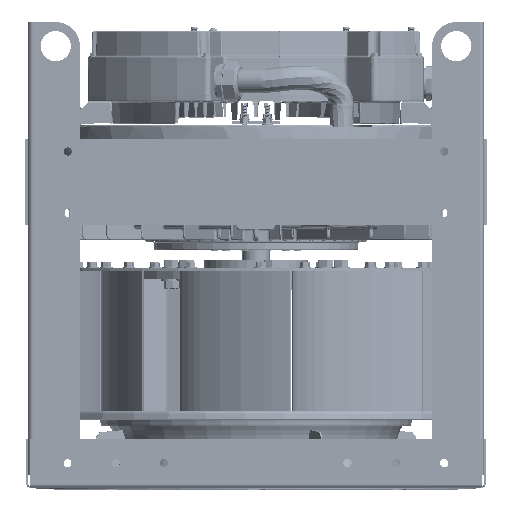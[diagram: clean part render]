
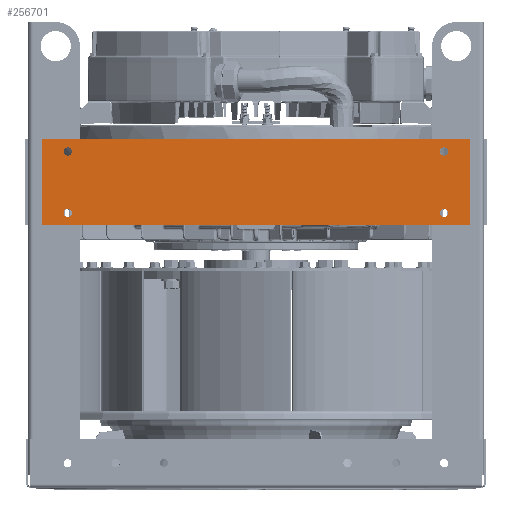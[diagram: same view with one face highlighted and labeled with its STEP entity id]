
A CAD part, front view. The second image highlights one B-rep face of the part: STEP entity #256701.
In plain terms, the highlighted planar face has unit normal (0, -1, 0) as drawn and (0, 0, -1) by its records, which use the part's own axes.
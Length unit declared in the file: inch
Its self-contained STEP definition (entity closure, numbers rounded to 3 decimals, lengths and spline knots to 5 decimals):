
#492 = CIRCLE ( 'NONE', #46944, 0.172 ) ;
#14996 = AXIS2_PLACEMENT_3D ( 'NONE', #96579, #72330, #25329 ) ;
#17890 = CARTESIAN_POINT ( 'NONE',  ( 8.865, -1.77, 0. ) ) ;
#21151 = LINE ( 'NONE', #170020, #211689 ) ;
#24623 = EDGE_LOOP ( 'NONE', ( #263222 ) ) ;
#25329 = DIRECTION ( 'NONE',  ( 1., 0., 0. ) ) ;
#26409 = DIRECTION ( 'NONE',  ( 0., -1., 0. ) ) ;
#27752 = AXIS2_PLACEMENT_3D ( 'NONE', #141549, #65502, #215910 ) ;
#38983 = FACE_BOUND ( 'NONE', #120374, .T. ) ;
#39611 = ORIENTED_EDGE ( 'NONE', *, *, #133443, .T. ) ;
#46944 = AXIS2_PLACEMENT_3D ( 'NONE', #142897, #74521, #199051 ) ;
#48929 = DIRECTION ( 'NONE',  ( -1., 0., 0. ) ) ;
#49967 = CARTESIAN_POINT ( 'NONE',  ( 7.957, 1.27, 0. ) ) ;
#65502 = DIRECTION ( 'NONE',  ( 0., 0., 1. ) ) ;
#66490 = DIRECTION ( 'NONE',  ( 0., 1., 0. ) ) ;
#67610 = CARTESIAN_POINT ( 'NONE',  ( -8.865, 1.77, 0. ) ) ;
#72330 = DIRECTION ( 'NONE',  ( 0., 0., 1. ) ) ;
#74521 = DIRECTION ( 'NONE',  ( 0., 0., 1. ) ) ;
#75048 = EDGE_CURVE ( 'NONE', #243849, #75192, #21151, .T. ) ;
#75192 = VERTEX_POINT ( 'NONE', #124644 ) ;
#75840 = CARTESIAN_POINT ( 'NONE',  ( -7.613, 1.27, 0. ) ) ;
#76367 = LINE ( 'NONE', #294830, #277986 ) ;
#89516 = CARTESIAN_POINT ( 'NONE',  ( -8.865, -1.77, 0. ) ) ;
#91968 = EDGE_CURVE ( 'NONE', #75192, #158950, #76367, .T. ) ;
#93740 = EDGE_CURVE ( 'NONE', #266055, #243849, #180548, .T. ) ;
#96579 = CARTESIAN_POINT ( 'NONE',  ( 7.785, 1.27, 0. ) ) ;
#98556 = VERTEX_POINT ( 'NONE', #49967 ) ;
#100788 = EDGE_CURVE ( 'NONE', #317758, #317758, #166788, .T. ) ;
#110821 = ORIENTED_EDGE ( 'NONE', *, *, #143940, .F. ) ;
#115026 = DIRECTION ( 'NONE',  ( 0., 0., 1. ) ) ;
#119366 = PLANE ( 'NONE',  #205097 ) ;
#120374 = EDGE_LOOP ( 'NONE', ( #39611 ) ) ;
#124644 = CARTESIAN_POINT ( 'NONE',  ( 8.865, 1.77, 0. ) ) ;
#124748 = AXIS2_PLACEMENT_3D ( 'NONE', #139324, #115026, #213732 ) ;
#125909 = CIRCLE ( 'NONE', #27752, 0.172 ) ;
#129423 = ORIENTED_EDGE ( 'NONE', *, *, #93740, .F. ) ;
#133443 = EDGE_CURVE ( 'NONE', #98556, #98556, #175143, .T. ) ;
#139148 = EDGE_CURVE ( 'NONE', #302203, #302203, #492, .T. ) ;
#139324 = CARTESIAN_POINT ( 'NONE',  ( -7.785, -1.27, 0. ) ) ;
#141549 = CARTESIAN_POINT ( 'NONE',  ( 7.785, -1.27, 0. ) ) ;
#142897 = CARTESIAN_POINT ( 'NONE',  ( -7.785, 1.27, 0. ) ) ;
#143940 = EDGE_CURVE ( 'NONE', #158950, #266055, #269157, .T. ) ;
#145747 = ORIENTED_EDGE ( 'NONE', *, *, #100788, .T. ) ;
#153718 = VECTOR ( 'NONE', #183717, 39.37008 ) ;
#158950 = VERTEX_POINT ( 'NONE', #67610 ) ;
#166788 = CIRCLE ( 'NONE', #124748, 0.172 ) ;
#170020 = CARTESIAN_POINT ( 'NONE',  ( 8.865, 0., 0. ) ) ;
#175143 = CIRCLE ( 'NONE', #14996, 0.172 ) ;
#180548 = LINE ( 'NONE', #229106, #153718 ) ;
#183717 = DIRECTION ( 'NONE',  ( 1., 0., 0. ) ) ;
#186228 = FACE_BOUND ( 'NONE', #227382, .T. ) ;
#187808 = FACE_BOUND ( 'NONE', #275685, .T. ) ;
#199051 = DIRECTION ( 'NONE',  ( 1., 0., 0. ) ) ;
#202010 = EDGE_LOOP ( 'NONE', ( #110821, #259118, #307873, #129423 ) ) ;
#205097 = AXIS2_PLACEMENT_3D ( 'NONE', #281730, #284901, #236340 ) ;
#211689 = VECTOR ( 'NONE', #66490, 39.37008 ) ;
#213732 = DIRECTION ( 'NONE',  ( 1., 0., 0. ) ) ;
#215910 = DIRECTION ( 'NONE',  ( 1., 0., 0. ) ) ;
#218085 = FACE_BOUND ( 'NONE', #24623, .T. ) ;
#222920 = EDGE_CURVE ( 'NONE', #295144, #295144, #125909, .T. ) ;
#223952 = CARTESIAN_POINT ( 'NONE',  ( 7.957, -1.27, 0. ) ) ;
#227382 = EDGE_LOOP ( 'NONE', ( #256598 ) ) ;
#229106 = CARTESIAN_POINT ( 'NONE',  ( 0., -1.77, 0. ) ) ;
#236340 = DIRECTION ( 'NONE',  ( -1., 0., 0. ) ) ;
#243849 = VERTEX_POINT ( 'NONE', #17890 ) ;
#256598 = ORIENTED_EDGE ( 'NONE', *, *, #139148, .T. ) ;
#256701 = ADVANCED_FACE ( 'NONE', ( #260656, #187808, #186228, #218085, #38983 ), #119366, .T. ) ;
#259118 = ORIENTED_EDGE ( 'NONE', *, *, #91968, .F. ) ;
#260656 = FACE_OUTER_BOUND ( 'NONE', #202010, .T. ) ;
#263222 = ORIENTED_EDGE ( 'NONE', *, *, #222920, .T. ) ;
#266055 = VERTEX_POINT ( 'NONE', #89516 ) ;
#267582 = CARTESIAN_POINT ( 'NONE',  ( -7.613, -1.27, 0. ) ) ;
#269157 = LINE ( 'NONE', #290175, #298857 ) ;
#275685 = EDGE_LOOP ( 'NONE', ( #145747 ) ) ;
#277986 = VECTOR ( 'NONE', #48929, 39.37008 ) ;
#281730 = CARTESIAN_POINT ( 'NONE',  ( 0., 0., 0. ) ) ;
#284901 = DIRECTION ( 'NONE',  ( 0., 0., -1. ) ) ;
#290175 = CARTESIAN_POINT ( 'NONE',  ( -8.865, 0., 0. ) ) ;
#294830 = CARTESIAN_POINT ( 'NONE',  ( 0., 1.77, 0. ) ) ;
#295144 = VERTEX_POINT ( 'NONE', #223952 ) ;
#298857 = VECTOR ( 'NONE', #26409, 39.37008 ) ;
#302203 = VERTEX_POINT ( 'NONE', #75840 ) ;
#307873 = ORIENTED_EDGE ( 'NONE', *, *, #75048, .F. ) ;
#317758 = VERTEX_POINT ( 'NONE', #267582 ) ;
